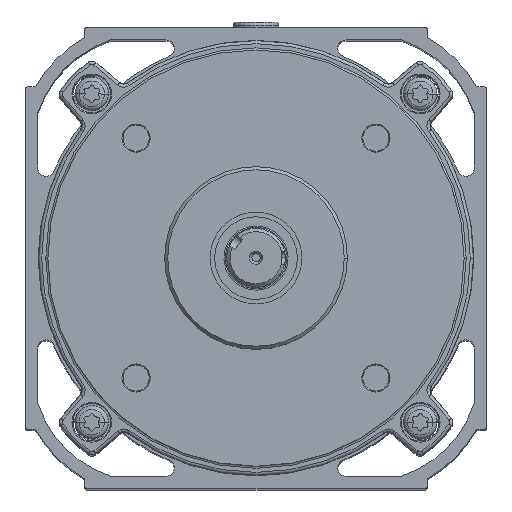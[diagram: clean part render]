
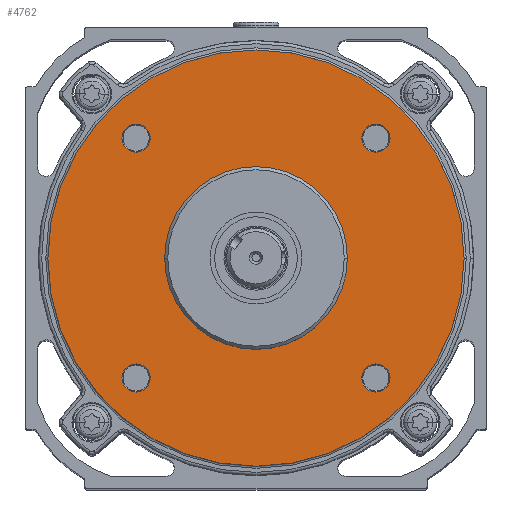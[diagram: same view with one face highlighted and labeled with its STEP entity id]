
A CAD part, top view. The second image highlights one B-rep face of the part: STEP entity #4762.
In plain terms, the highlighted planar face has unit normal (0, 0, 1).
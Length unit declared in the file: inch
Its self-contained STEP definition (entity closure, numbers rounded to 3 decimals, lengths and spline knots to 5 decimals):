
#4075 = ORIENTED_EDGE ( 'NONE', *, *, #4808, .T. ) ;
#4192 = VERTEX_POINT ( 'NONE', #21174 ) ;
#4206 = EDGE_CURVE ( 'NONE', #4207, #4210, #21213, .T. ) ;
#4207 = VERTEX_POINT ( 'NONE', #21203 ) ;
#4210 = VERTEX_POINT ( 'NONE', #21197 ) ;
#4246 = VERTEX_POINT ( 'NONE', #21308 ) ;
#4248 = EDGE_CURVE ( 'NONE', #4246, #4249, #21307, .T. ) ;
#4249 = VERTEX_POINT ( 'NONE', #21302 ) ;
#4252 = EDGE_CURVE ( 'NONE', #4192, #4253, #21297, .T. ) ;
#4253 = VERTEX_POINT ( 'NONE', #21292 ) ;
#4300 = VERTEX_POINT ( 'NONE', #21397 ) ;
#4302 = EDGE_CURVE ( 'NONE', #4300, #4303, #21396, .T. ) ;
#4303 = VERTEX_POINT ( 'NONE', #21391 ) ;
#4339 = EDGE_CURVE ( 'NONE', #4340, #4341, #21516, .T. ) ;
#4340 = VERTEX_POINT ( 'NONE', #21507 ) ;
#4341 = VERTEX_POINT ( 'NONE', #21506 ) ;
#4350 = VERTEX_POINT ( 'NONE', #21494 ) ;
#4352 = EDGE_CURVE ( 'NONE', #4350, #4353, #21492, .T. ) ;
#4353 = VERTEX_POINT ( 'NONE', #21548 ) ;
#4661 = EDGE_CURVE ( 'NONE', #4341, #4340, #22473, .T. ) ;
#4712 = EDGE_CURVE ( 'NONE', #4353, #4350, #22547, .T. ) ;
#4743 = EDGE_LOOP ( 'NONE', ( #4744, #4745 ) ) ;
#4744 = ORIENTED_EDGE ( 'NONE', *, *, #4782, .F. ) ;
#4745 = ORIENTED_EDGE ( 'NONE', *, *, #4302, .F. ) ;
#4746 = EDGE_LOOP ( 'NONE', ( #4748, #4749 ) ) ;
#4748 = ORIENTED_EDGE ( 'NONE', *, *, #4712, .F. ) ;
#4749 = ORIENTED_EDGE ( 'NONE', *, *, #4352, .F. ) ;
#4750 = EDGE_LOOP ( 'NONE', ( #4075, #4809 ) ) ;
#4761 = EDGE_CURVE ( 'NONE', #4253, #4192, #22655, .T. ) ;
#4762 = ADVANCED_FACE ( 'NONE', ( #22650, #22649, #22648, #22647, #22646, #22645 ), #22644, .F. ) ;
#4763 = EDGE_LOOP ( 'NONE', ( #4821, #4823 ) ) ;
#4771 = EDGE_CURVE ( 'NONE', #4249, #4246, #22698, .T. ) ;
#4782 = EDGE_CURVE ( 'NONE', #4303, #4300, #22673, .T. ) ;
#4808 = EDGE_CURVE ( 'NONE', #4210, #4207, #22749, .T. ) ;
#4809 = ORIENTED_EDGE ( 'NONE', *, *, #4206, .T. ) ;
#4810 = EDGE_LOOP ( 'NONE', ( #4811, #4812 ) ) ;
#4811 = ORIENTED_EDGE ( 'NONE', *, *, #4339, .F. ) ;
#4812 = ORIENTED_EDGE ( 'NONE', *, *, #4661, .F. ) ;
#4821 = ORIENTED_EDGE ( 'NONE', *, *, #4761, .F. ) ;
#4823 = ORIENTED_EDGE ( 'NONE', *, *, #4252, .F. ) ;
#4824 = EDGE_LOOP ( 'NONE', ( #4825, #4826 ) ) ;
#4825 = ORIENTED_EDGE ( 'NONE', *, *, #4771, .F. ) ;
#4826 = ORIENTED_EDGE ( 'NONE', *, *, #4248, .F. ) ;
#21174 = CARTESIAN_POINT ( 'NONE',  ( -1.28405, -1.14905, 0.335 ) ) ;
#21197 = CARTESIAN_POINT ( 'NONE',  ( 1.99391, 0., 0.335 ) ) ;
#21203 = CARTESIAN_POINT ( 'NONE',  ( -1.99391, 0., 0.335 ) ) ;
#21204 = DIRECTION ( 'NONE',  ( -1., 0., 0. ) ) ;
#21205 = DIRECTION ( 'NONE',  ( 0., 0., 1. ) ) ;
#21206 = CARTESIAN_POINT ( 'NONE',  ( 0., 0., 0.335 ) ) ;
#21207 = AXIS2_PLACEMENT_3D ( 'NONE', #21206, #21205, #21204 ) ;
#21213 = CIRCLE ( 'NONE', #21207, 1.99391 ) ;
#21292 = CARTESIAN_POINT ( 'NONE',  ( -1.01405, -1.14905, 0.335 ) ) ;
#21293 = DIRECTION ( 'NONE',  ( 1., 0., 0. ) ) ;
#21294 = DIRECTION ( 'NONE',  ( 0., 0., 1. ) ) ;
#21295 = CARTESIAN_POINT ( 'NONE',  ( -1.14905, -1.14905, 0.335 ) ) ;
#21296 = AXIS2_PLACEMENT_3D ( 'NONE', #21295, #21294, #21293 ) ;
#21297 = CIRCLE ( 'NONE', #21296, 0.135 ) ;
#21302 = CARTESIAN_POINT ( 'NONE',  ( 1.28405, -1.14905, 0.335 ) ) ;
#21303 = DIRECTION ( 'NONE',  ( 1., 0., 0. ) ) ;
#21304 = DIRECTION ( 'NONE',  ( 0., 0., 1. ) ) ;
#21305 = CARTESIAN_POINT ( 'NONE',  ( 1.14905, -1.14905, 0.335 ) ) ;
#21306 = AXIS2_PLACEMENT_3D ( 'NONE', #21305, #21304, #21303 ) ;
#21307 = CIRCLE ( 'NONE', #21306, 0.135 ) ;
#21308 = CARTESIAN_POINT ( 'NONE',  ( 1.01405, -1.14905, 0.335 ) ) ;
#21391 = CARTESIAN_POINT ( 'NONE',  ( 1.28405, 1.14905, 0.335 ) ) ;
#21392 = DIRECTION ( 'NONE',  ( 1., 0., 0. ) ) ;
#21393 = DIRECTION ( 'NONE',  ( 0., 0., 1. ) ) ;
#21394 = CARTESIAN_POINT ( 'NONE',  ( 1.14905, 1.14905, 0.335 ) ) ;
#21395 = AXIS2_PLACEMENT_3D ( 'NONE', #21394, #21393, #21392 ) ;
#21396 = CIRCLE ( 'NONE', #21395, 0.135 ) ;
#21397 = CARTESIAN_POINT ( 'NONE',  ( 1.01405, 1.14905, 0.335 ) ) ;
#21487 = DIRECTION ( 'NONE',  ( 1., 0., 0. ) ) ;
#21489 = DIRECTION ( 'NONE',  ( 0., 0., 1. ) ) ;
#21490 = CARTESIAN_POINT ( 'NONE',  ( -1.14905, 1.14905, 0.335 ) ) ;
#21491 = AXIS2_PLACEMENT_3D ( 'NONE', #21490, #21489, #21487 ) ;
#21492 = CIRCLE ( 'NONE', #21491, 0.135 ) ;
#21494 = CARTESIAN_POINT ( 'NONE',  ( -1.28405, 1.14905, 0.335 ) ) ;
#21506 = CARTESIAN_POINT ( 'NONE',  ( -0.875, 0., 0.335 ) ) ;
#21507 = CARTESIAN_POINT ( 'NONE',  ( 0.875, 0., 0.335 ) ) ;
#21508 = DIRECTION ( 'NONE',  ( -1., 0., 0. ) ) ;
#21509 = DIRECTION ( 'NONE',  ( 0., 0., 1. ) ) ;
#21510 = CARTESIAN_POINT ( 'NONE',  ( 0., 0., 0.335 ) ) ;
#21511 = AXIS2_PLACEMENT_3D ( 'NONE', #21510, #21509, #21508 ) ;
#21516 = CIRCLE ( 'NONE', #21511, 0.875 ) ;
#21548 = CARTESIAN_POINT ( 'NONE',  ( -1.01405, 1.14905, 0.335 ) ) ;
#22469 = DIRECTION ( 'NONE',  ( -1., 0., 0. ) ) ;
#22470 = DIRECTION ( 'NONE',  ( 0., 0., 1. ) ) ;
#22471 = CARTESIAN_POINT ( 'NONE',  ( 0., 0., 0.335 ) ) ;
#22472 = AXIS2_PLACEMENT_3D ( 'NONE', #22471, #22470, #22469 ) ;
#22473 = CIRCLE ( 'NONE', #22472, 0.875 ) ;
#22543 = DIRECTION ( 'NONE',  ( 1., 0., 0. ) ) ;
#22544 = DIRECTION ( 'NONE',  ( 0., 0., 1. ) ) ;
#22545 = CARTESIAN_POINT ( 'NONE',  ( -1.14905, 1.14905, 0.335 ) ) ;
#22546 = AXIS2_PLACEMENT_3D ( 'NONE', #22545, #22544, #22543 ) ;
#22547 = CIRCLE ( 'NONE', #22546, 0.135 ) ;
#22639 = DIRECTION ( 'NONE',  ( -1., 0., 0. ) ) ;
#22640 = DIRECTION ( 'NONE',  ( 0., 0., -1. ) ) ;
#22641 = AXIS2_PLACEMENT_3D ( 'NONE', #22643, #22640, #22639 ) ;
#22643 = CARTESIAN_POINT ( 'NONE',  ( 0., 0., 0.335 ) ) ;
#22644 = PLANE ( 'NONE',  #22641 ) ;
#22645 = FACE_BOUND ( 'NONE', #4810, .T. ) ;
#22646 = FACE_OUTER_BOUND ( 'NONE', #4750, .T. ) ;
#22647 = FACE_BOUND ( 'NONE', #4746, .T. ) ;
#22648 = FACE_BOUND ( 'NONE', #4743, .T. ) ;
#22649 = FACE_BOUND ( 'NONE', #4824, .T. ) ;
#22650 = FACE_BOUND ( 'NONE', #4763, .T. ) ;
#22651 = DIRECTION ( 'NONE',  ( 1., 0., 0. ) ) ;
#22652 = DIRECTION ( 'NONE',  ( 0., 0., 1. ) ) ;
#22653 = CARTESIAN_POINT ( 'NONE',  ( -1.14905, -1.14905, 0.335 ) ) ;
#22654 = AXIS2_PLACEMENT_3D ( 'NONE', #22653, #22652, #22651 ) ;
#22655 = CIRCLE ( 'NONE', #22654, 0.135 ) ;
#22671 = CARTESIAN_POINT ( 'NONE',  ( 1.14905, 1.14905, 0.335 ) ) ;
#22672 = AXIS2_PLACEMENT_3D ( 'NONE', #22671, #22732, #22731 ) ;
#22673 = CIRCLE ( 'NONE', #22672, 0.135 ) ;
#22690 = DIRECTION ( 'NONE',  ( 1., 0., 0. ) ) ;
#22691 = DIRECTION ( 'NONE',  ( 0., 0., 1. ) ) ;
#22692 = CARTESIAN_POINT ( 'NONE',  ( 1.14905, -1.14905, 0.335 ) ) ;
#22693 = AXIS2_PLACEMENT_3D ( 'NONE', #22692, #22691, #22690 ) ;
#22698 = CIRCLE ( 'NONE', #22693, 0.135 ) ;
#22731 = DIRECTION ( 'NONE',  ( 1., 0., 0. ) ) ;
#22732 = DIRECTION ( 'NONE',  ( 0., 0., 1. ) ) ;
#22745 = DIRECTION ( 'NONE',  ( -1., 0., 0. ) ) ;
#22746 = DIRECTION ( 'NONE',  ( 0., 0., 1. ) ) ;
#22747 = CARTESIAN_POINT ( 'NONE',  ( 0., 0., 0.335 ) ) ;
#22748 = AXIS2_PLACEMENT_3D ( 'NONE', #22747, #22746, #22745 ) ;
#22749 = CIRCLE ( 'NONE', #22748, 1.99391 ) ;
